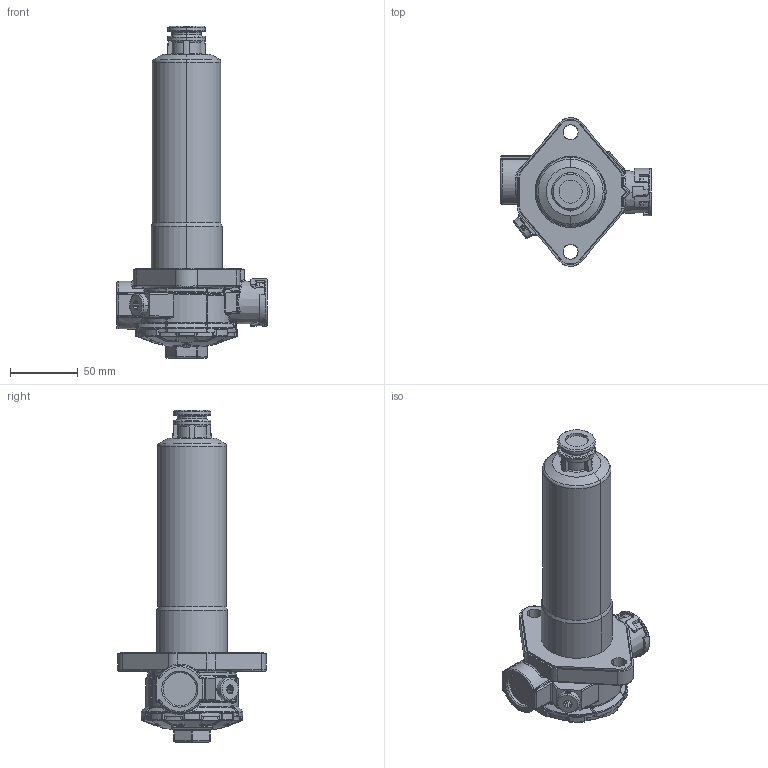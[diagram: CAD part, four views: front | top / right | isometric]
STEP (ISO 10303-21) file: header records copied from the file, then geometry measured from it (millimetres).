
FILE_DESCRIPTION((''),'2;1');
FILE_NAME('1000514718','2024-07-12T14:44:18',('g.topp'),(''),'CREO PARAMETRIC BY PTC INC, 2023254','CREO PARAMETRIC BY PTC INC, 2023254','');
FILE_SCHEMA(('AUTOMOTIVE_DESIGN { 1 0 10303 214 1 1 1 1 }'));
Products named in the file (1): 1000514718
Bounding box: 111 x 109.6 x 244.7 mm (x, y, z)
Volume: 607191.9 mm3; surface area: 66023.2 mm2
Topology: 1 solids, 10 shells, 1379 faces, 3403 edges, 2079 vertices
Faces by surface type: bspline 425, plane 422, cylinder 253, cone 92, torus 92, sphere 64, extrusion 31
Entity records: 69373 total; most frequent: CARTESIAN_POINT 30400, ORIENTED_EDGE 6794, DIRECTION 4851, PRESENTATION_STYLE_ASSIGNMENT 3398, STYLED_ITEM 3398, CURVE_STYLE 3397, EDGE_CURVE 3397, VERTEX_POINT 2079
